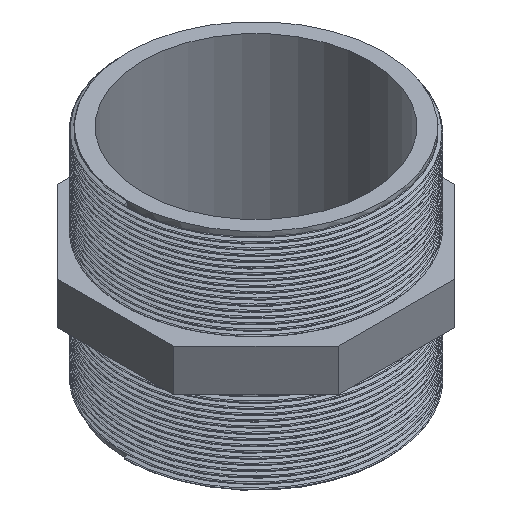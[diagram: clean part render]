
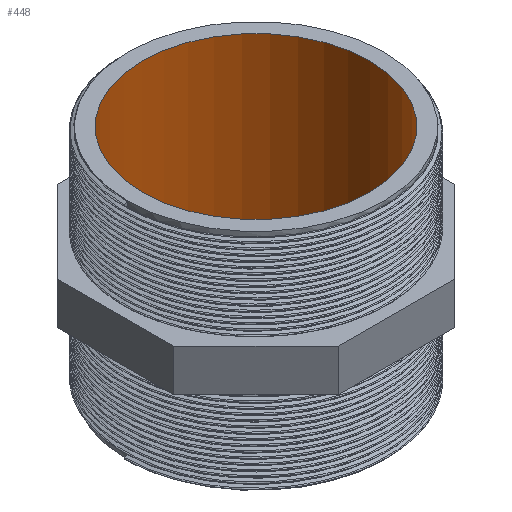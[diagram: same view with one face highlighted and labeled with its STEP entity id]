
A CAD part, isometric view. The second image highlights one B-rep face of the part: STEP entity #448.
In plain terms, the highlighted cylindrical face has radius 48.75 mm (diameter 97.5 mm), a full revolution.
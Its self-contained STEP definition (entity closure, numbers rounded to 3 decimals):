
#17=CYLINDRICAL_SURFACE('',#475,48.75);
#26=CIRCLE('',#476,48.75);
#27=CIRCLE('',#477,48.75);
#40=FACE_BOUND('',#119,.T.);
#89=FACE_OUTER_BOUND('',#118,.T.);
#118=EDGE_LOOP('',(#404));
#119=EDGE_LOOP('',(#405));
#222=VERTEX_POINT('',#13463);
#223=VERTEX_POINT('',#13465);
#284=EDGE_CURVE('',#222,#222,#26,.T.);
#285=EDGE_CURVE('',#223,#223,#27,.T.);
#404=ORIENTED_EDGE('',*,*,#284,.F.);
#405=ORIENTED_EDGE('',*,*,#285,.F.);
#448=ADVANCED_FACE('',(#89,#40),#17,.F.);
#475=AXIS2_PLACEMENT_3D('',#13462,#556,#557);
#476=AXIS2_PLACEMENT_3D('',#13464,#558,#559);
#477=AXIS2_PLACEMENT_3D('',#13466,#560,#561);
#556=DIRECTION('center_axis',(0.,0.,1.));
#557=DIRECTION('ref_axis',(-1.,0.,0.));
#558=DIRECTION('center_axis',(0.,0.,-1.));
#559=DIRECTION('ref_axis',(-1.,0.,0.));
#560=DIRECTION('center_axis',(0.,0.,1.));
#561=DIRECTION('ref_axis',(-1.,0.,0.));
#13462=CARTESIAN_POINT('Origin',(0.,0.,0.));
#13463=CARTESIAN_POINT('',(48.75,0.,48.));
#13464=CARTESIAN_POINT('Origin',(0.,0.,48.));
#13465=CARTESIAN_POINT('',(48.75,0.,-48.));
#13466=CARTESIAN_POINT('Origin',(0.,0.,-48.));
